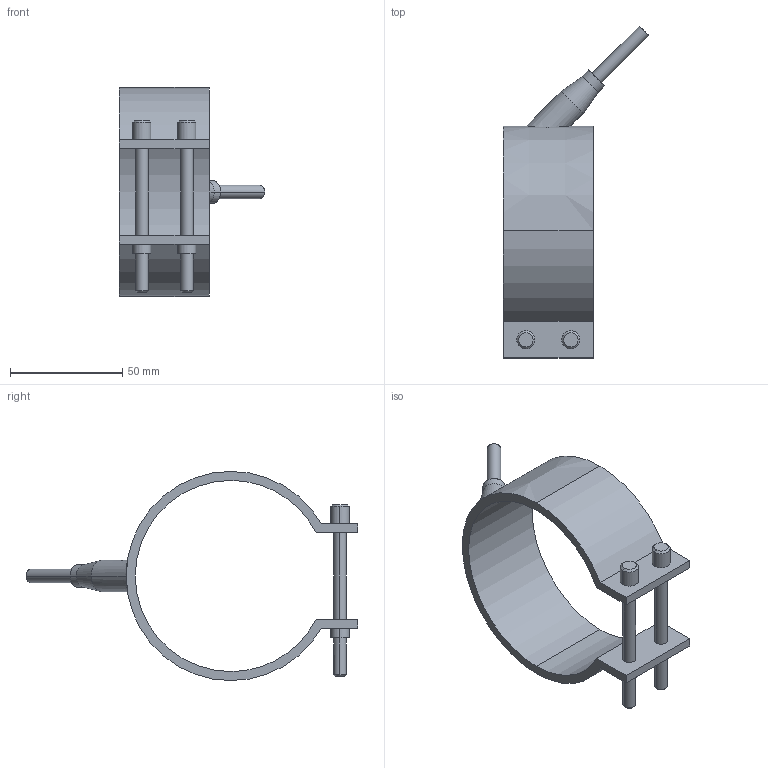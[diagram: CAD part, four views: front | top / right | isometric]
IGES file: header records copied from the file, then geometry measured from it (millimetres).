
Start section: START RECORD GO HERE.
Global section: file name: 29085040.igs; native system: DASSAULT SYSTEMES CATIA V5 R20 - www.3ds.com; preprocessor: CATIA Version 5 Release 20 ; author: Utente; organization: NB04-ASUS; date: 20210329.200405; units: millimetre
Bounding box: 64.55 x 147.55 x 93 mm (x, y, z)
Surface area: 28231.4 mm2 (no closed solid volume)
Topology: 0 solids, 0 shells, 54 faces, 246 edges, 246 vertices
Faces by surface type: revolution 38, plane 16
